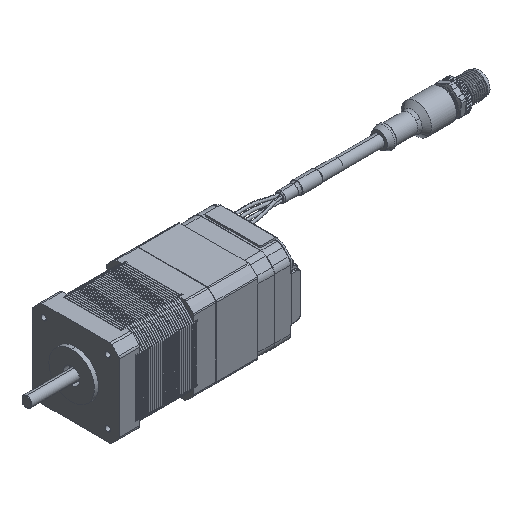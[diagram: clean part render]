
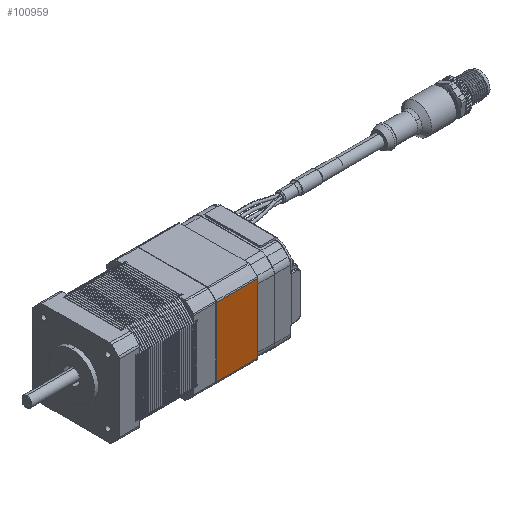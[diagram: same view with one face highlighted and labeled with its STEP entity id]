
A CAD part, isometric view. The second image highlights one B-rep face of the part: STEP entity #100959.
In plain terms, the highlighted free-form (B-spline) face has degree [1, 1] with [2, 2] control points.
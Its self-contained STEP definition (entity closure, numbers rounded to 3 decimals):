
#1029 = EDGE_CURVE ( 'NONE', #106543, #96901, #66587, .T. ) ;
#6496 = VERTEX_POINT ( 'NONE', #33792 ) ;
#12718 = CARTESIAN_POINT ( 'NONE',  ( 57., -21., 14.355 ) ) ;
#14493 = CARTESIAN_POINT ( 'NONE',  ( 57., -21., 16.613 ) ) ;
#16276 = CARTESIAN_POINT ( 'NONE',  ( 37., -21., -16.613 ) ) ;
#20592 = EDGE_CURVE ( 'NONE', #81433, #93969, #105418, .T. ) ;
#22408 = CARTESIAN_POINT ( 'NONE',  ( 57., -21., -14.355 ) ) ;
#22681 = B_SPLINE_SURFACE_WITH_KNOTS ( 'NONE', 1, 1, ( 
 ( #28999, #112904 ),
 ( #105952, #26498 ) ),
 .UNSPECIFIED., .F., .F., .F.,
 ( 2, 2 ),
 ( 2, 2 ),
 ( 0., 1. ),
 ( 0., 1. ),
 .UNSPECIFIED. ) ;
#25103 = CARTESIAN_POINT ( 'NONE',  ( 37., -21., 16.613 ) ) ;
#26498 = CARTESIAN_POINT ( 'NONE',  ( 57., -21., -16.613 ) ) ;
#28999 = CARTESIAN_POINT ( 'NONE',  ( 37., -21., 16.613 ) ) ;
#29052 = EDGE_CURVE ( 'NONE', #6496, #80267, #58080, .T. ) ;
#30689 = CARTESIAN_POINT ( 'NONE',  ( 37., -21., -16.613 ) ) ;
#31855 = CARTESIAN_POINT ( 'NONE',  ( 57., -21., 14.355 ) ) ;
#33792 = CARTESIAN_POINT ( 'NONE',  ( 57., -21., 16.613 ) ) ;
#40137 = CARTESIAN_POINT ( 'NONE',  ( 57., -21., -16.613 ) ) ;
#41591 = ORIENTED_EDGE ( 'NONE', *, *, #29052, .F. ) ;
#47290 = FACE_OUTER_BOUND ( 'NONE', #56482, .T. ) ;
#48696 = EDGE_CURVE ( 'NONE', #80267, #106543, #55114, .T. ) ;
#53209 = CARTESIAN_POINT ( 'NONE',  ( 57., -21., -16.613 ) ) ;
#55114 = B_SPLINE_CURVE_WITH_KNOTS ( 'NONE', 1,
 ( #31855, #22408 ),
 .UNSPECIFIED., .F., .F.,
 ( 2, 2 ),
 ( -0.932, -0.068 ),
 .UNSPECIFIED. ) ;
#55680 = B_SPLINE_CURVE_WITH_KNOTS ( 'NONE', 1,
 ( #100006, #109423 ),
 .UNSPECIFIED., .F., .F.,
 ( 2, 2 ),
 ( -1., 0. ),
 .UNSPECIFIED. ) ;
#56482 = EDGE_LOOP ( 'NONE', ( #115275, #73209, #105886, #120513, #41591, #89020 ) ) ;
#57702 = EDGE_CURVE ( 'NONE', #93969, #6496, #55680, .T. ) ;
#58080 = B_SPLINE_CURVE_WITH_KNOTS ( 'NONE', 1,
 ( #14493, #90221 ),
 .UNSPECIFIED., .F., .F.,
 ( 2, 2 ),
 ( 0., 0.068 ),
 .UNSPECIFIED. ) ;
#61577 = EDGE_CURVE ( 'NONE', #96901, #81433, #71027, .T. ) ;
#63130 = CARTESIAN_POINT ( 'NONE',  ( 57., -21., -16.613 ) ) ;
#66587 = B_SPLINE_CURVE_WITH_KNOTS ( 'NONE', 1,
 ( #82860, #53209 ),
 .UNSPECIFIED., .F., .F.,
 ( 2, 2 ),
 ( 0.932, 1. ),
 .UNSPECIFIED. ) ;
#71027 = B_SPLINE_CURVE_WITH_KNOTS ( 'NONE', 1,
 ( #40137, #30689 ),
 .UNSPECIFIED., .F., .F.,
 ( 2, 2 ),
 ( -1., 0. ),
 .UNSPECIFIED. ) ;
#73209 = ORIENTED_EDGE ( 'NONE', *, *, #61577, .F. ) ;
#80267 = VERTEX_POINT ( 'NONE', #12718 ) ;
#81433 = VERTEX_POINT ( 'NONE', #112800 ) ;
#82860 = CARTESIAN_POINT ( 'NONE',  ( 57., -21., -14.355 ) ) ;
#86655 = CARTESIAN_POINT ( 'NONE',  ( 37., -21., 16.613 ) ) ;
#89020 = ORIENTED_EDGE ( 'NONE', *, *, #57702, .F. ) ;
#90221 = CARTESIAN_POINT ( 'NONE',  ( 57., -21., 14.355 ) ) ;
#93969 = VERTEX_POINT ( 'NONE', #86655 ) ;
#96901 = VERTEX_POINT ( 'NONE', #63130 ) ;
#100006 = CARTESIAN_POINT ( 'NONE',  ( 37., -21., 16.613 ) ) ;
#100959 = ADVANCED_FACE ( 'NONE', ( #47290 ), #22681, .F. ) ;
#105418 = B_SPLINE_CURVE_WITH_KNOTS ( 'NONE', 1,
 ( #16276, #25103 ),
 .UNSPECIFIED., .F., .F.,
 ( 2, 2 ),
 ( 0., 1. ),
 .UNSPECIFIED. ) ;
#105886 = ORIENTED_EDGE ( 'NONE', *, *, #1029, .F. ) ;
#105952 = CARTESIAN_POINT ( 'NONE',  ( 57., -21., 16.613 ) ) ;
#106543 = VERTEX_POINT ( 'NONE', #108188 ) ;
#108188 = CARTESIAN_POINT ( 'NONE',  ( 57., -21., -14.355 ) ) ;
#109423 = CARTESIAN_POINT ( 'NONE',  ( 57., -21., 16.613 ) ) ;
#112800 = CARTESIAN_POINT ( 'NONE',  ( 37., -21., -16.613 ) ) ;
#112904 = CARTESIAN_POINT ( 'NONE',  ( 37., -21., -16.613 ) ) ;
#115275 = ORIENTED_EDGE ( 'NONE', *, *, #20592, .F. ) ;
#120513 = ORIENTED_EDGE ( 'NONE', *, *, #48696, .F. ) ;
